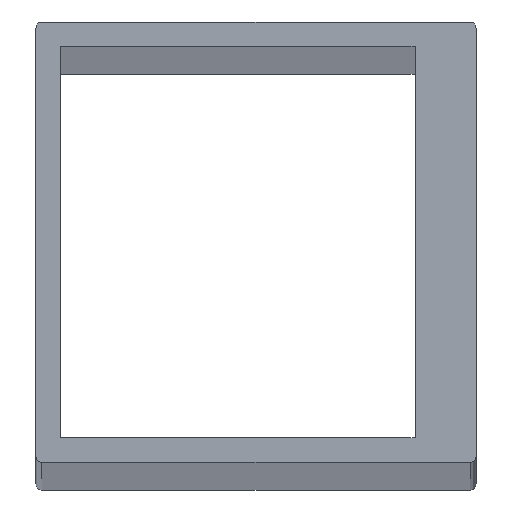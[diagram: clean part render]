
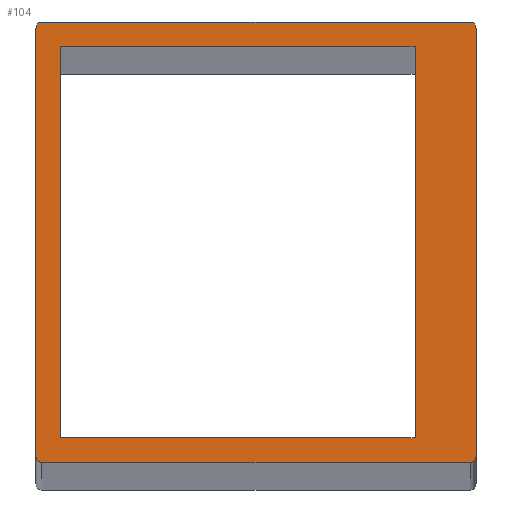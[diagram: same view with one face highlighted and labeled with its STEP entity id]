
A CAD part, top view. The second image highlights one B-rep face of the part: STEP entity #104.
In plain terms, the highlighted planar face has unit normal (0, 0, 1).
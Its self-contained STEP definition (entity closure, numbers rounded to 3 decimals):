
#104=ADVANCED_FACE('',(#298,#299),#178,.F.);
#178=PLANE('',#1191);
#203=LINE('',#1671,#231);
#204=LINE('',#1713,#232);
#210=LINE('',#1758,#238);
#213=LINE('',#1764,#241);
#215=LINE('',#1767,#243);
#216=LINE('',#1769,#244);
#222=LINE('',#1783,#250);
#226=LINE('',#1792,#254);
#231=VECTOR('',#1314,1.);
#232=VECTOR('',#1357,1.);
#238=VECTOR('',#1397,1.);
#241=VECTOR('',#1402,1.);
#243=VECTOR('',#1406,1.);
#244=VECTOR('',#1409,1.);
#250=VECTOR('',#1417,1.);
#254=VECTOR('',#1423,1.);
#298=FACE_BOUND('',#470,.T.);
#299=FACE_BOUND('',#471,.T.);
#470=EDGE_LOOP('',(#670,#671,#672,#673,#674,#675,#676,#677));
#471=EDGE_LOOP('',(#678,#679,#680,#681));
#670=ORIENTED_EDGE('',*,*,#996,.F.);
#671=ORIENTED_EDGE('',*,*,#1002,.T.);
#672=ORIENTED_EDGE('',*,*,#990,.F.);
#673=ORIENTED_EDGE('',*,*,#1003,.T.);
#674=ORIENTED_EDGE('',*,*,#962,.F.);
#675=ORIENTED_EDGE('',*,*,#1004,.T.);
#676=ORIENTED_EDGE('',*,*,#1000,.F.);
#677=ORIENTED_EDGE('',*,*,#1005,.T.);
#678=ORIENTED_EDGE('',*,*,#987,.T.);
#679=ORIENTED_EDGE('',*,*,#989,.T.);
#680=ORIENTED_EDGE('',*,*,#984,.T.);
#681=ORIENTED_EDGE('',*,*,#941,.T.);
#834=VERTEX_POINT('',#1665);
#837=VERTEX_POINT('',#1670);
#858=VERTEX_POINT('',#1714);
#859=VERTEX_POINT('',#1715);
#878=VERTEX_POINT('',#1755);
#881=VERTEX_POINT('',#1763);
#882=VERTEX_POINT('',#1770);
#883=VERTEX_POINT('',#1771);
#888=VERTEX_POINT('',#1782);
#889=VERTEX_POINT('',#1784);
#892=VERTEX_POINT('',#1791);
#893=VERTEX_POINT('',#1793);
#941=EDGE_CURVE('',#834,#837,#203,.T.);
#962=EDGE_CURVE('',#858,#859,#204,.T.);
#984=EDGE_CURVE('',#878,#834,#210,.T.);
#987=EDGE_CURVE('',#837,#881,#213,.T.);
#989=EDGE_CURVE('',#881,#878,#215,.T.);
#990=EDGE_CURVE('',#882,#883,#216,.T.);
#996=EDGE_CURVE('',#888,#889,#222,.T.);
#1000=EDGE_CURVE('',#892,#893,#226,.T.);
#1002=EDGE_CURVE('',#888,#883,#1090,.T.);
#1003=EDGE_CURVE('',#882,#859,#1091,.T.);
#1004=EDGE_CURVE('',#858,#893,#1092,.T.);
#1005=EDGE_CURVE('',#892,#889,#1093,.T.);
#1090=CIRCLE('',#1187,0.5);
#1091=CIRCLE('',#1188,0.5);
#1092=CIRCLE('',#1189,0.5);
#1093=CIRCLE('',#1190,0.5);
#1187=AXIS2_PLACEMENT_3D('',#1796,#1427,#1428);
#1188=AXIS2_PLACEMENT_3D('',#1797,#1429,#1430);
#1189=AXIS2_PLACEMENT_3D('',#1798,#1431,#1432);
#1190=AXIS2_PLACEMENT_3D('',#1799,#1433,#1434);
#1191=AXIS2_PLACEMENT_3D('',#1800,#1435,#1436);
#1314=DIRECTION('',(0.,-1.,0.));
#1357=DIRECTION('',(0.,-1.,0.));
#1397=DIRECTION('',(1.,0.,0.));
#1402=DIRECTION('',(-1.,0.,0.));
#1406=DIRECTION('',(0.,1.,0.));
#1409=DIRECTION('',(-1.,0.,0.));
#1417=DIRECTION('',(0.,1.,0.));
#1423=DIRECTION('',(1.,0.,0.));
#1427=DIRECTION('',(0.,0.,1.));
#1428=DIRECTION('',(-1.,0.,0.));
#1429=DIRECTION('',(0.,0.,1.));
#1430=DIRECTION('',(-1.,0.,0.));
#1431=DIRECTION('',(0.,0.,1.));
#1432=DIRECTION('',(-1.,0.,0.));
#1433=DIRECTION('',(0.,0.,1.));
#1434=DIRECTION('',(-1.,0.,0.));
#1435=DIRECTION('',(0.,0.,-1.));
#1436=DIRECTION('',(1.,0.,0.));
#1665=CARTESIAN_POINT('',(455.,-131.5,1300.83));
#1670=CARTESIAN_POINT('',(455.,-163.5,1300.83));
#1671=CARTESIAN_POINT('',(455.,-147.5,1300.83));
#1713=CARTESIAN_POINT('',(460.,-197.5,1300.83));
#1714=CARTESIAN_POINT('',(460.,-130.,1300.83));
#1715=CARTESIAN_POINT('',(460.,-165.,1300.83));
#1755=CARTESIAN_POINT('',(426.,-131.5,1300.83));
#1758=CARTESIAN_POINT('',(442.,-131.5,1300.83));
#1763=CARTESIAN_POINT('',(426.,-163.5,1300.83));
#1764=CARTESIAN_POINT('',(442.,-163.5,1300.83));
#1767=CARTESIAN_POINT('',(426.,-147.5,1300.83));
#1769=CARTESIAN_POINT('',(392.,-165.5,1300.83));
#1770=CARTESIAN_POINT('',(459.5,-165.5,1300.83));
#1771=CARTESIAN_POINT('',(424.5,-165.5,1300.83));
#1782=CARTESIAN_POINT('',(424.,-165.,1300.83));
#1783=CARTESIAN_POINT('',(424.,-97.5,1300.83));
#1784=CARTESIAN_POINT('',(424.,-130.,1300.83));
#1791=CARTESIAN_POINT('',(424.5,-129.5,1300.83));
#1792=CARTESIAN_POINT('',(492.,-129.5,1300.83));
#1793=CARTESIAN_POINT('',(459.5,-129.5,1300.83));
#1796=CARTESIAN_POINT('',(424.5,-165.,1300.83));
#1797=CARTESIAN_POINT('',(459.5,-165.,1300.83));
#1798=CARTESIAN_POINT('',(459.5,-130.,1300.83));
#1799=CARTESIAN_POINT('',(424.5,-130.,1300.83));
#1800=CARTESIAN_POINT('',(442.,-147.5,1300.83));
